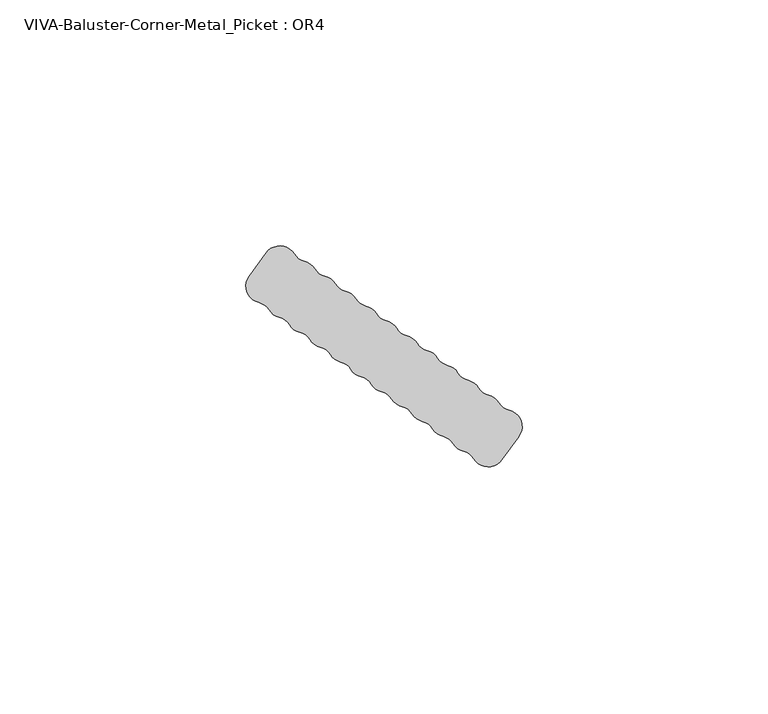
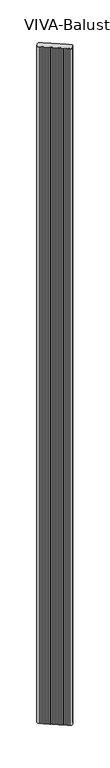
"""IFC4 building model written with IfcOpenShell, lengths in millimetres: railing geometry, VIVA-Baluster-Corner-Metal_Picket : OR4."""

from ifc_helpers import new_model, si_unit, frame, origin, place, context, project, spatial, polyline, circle_curve, source, transform, mapped, element, save
from ifc_brep_helpers import plane_surface, cylinder_surface, revolved_surface, advanced_brep


def viva_baluster_corner_metal_picket_or4_408f65ec(model_context):
    return source(origin(), model_context, "Body", "AdvancedBrep", [
        advanced_brep(
        [(48.8660209, 253.3239054, 1219.2), (52.2899776, 258.0365775, 1219.2), (50.3414144, 263.3921451, 1219.2), (48.2591082, 264.9050291, 1219.2), (46.176802, 266.4179131, 1219.2), (44.0944959, 267.9307971, 1219.2), (42.0121897, 269.443681, 1219.2), (39.9298836, 270.956565, 1219.2), (37.8475774, 272.469449, 1219.2), (35.7652713, 273.982333, 1219.2), (33.6829651, 275.4952169, 1219.2), (31.6006589, 277.0081009, 1219.2), (29.5183528, 278.5209849, 1219.2), (27.4360466, 280.0338689, 1219.2), (25.3537405, 281.5467529, 1219.2), (23.2714343, 283.0596368, 1219.2), (21.1891282, 284.5725208, 1219.2), (19.106822, 286.0854048, 1219.2), (17.0245158, 287.5982888, 1219.2), (14.9422097, 289.1111728, 1219.2), (12.8599035, 290.6240567, 1219.2), (10.7775974, 292.1369407, 1219.2), (8.6952912, 293.6498247, 1219.2), (6.612985, 295.1627087, 1219.2), (0.9173985, 295.3609411, 1219.2), (-2.5065583, 290.6482689, 1219.2), (-0.557995, 285.2927014, 1219.2), (1.5243111, 283.7798174, 1219.2), (3.6066173, 282.2669334, 1219.2), (5.6889234, 280.7540494, 1219.2), (7.7712296, 279.2411654, 1219.2), (9.8535358, 277.7282815, 1219.2), (11.9358419, 276.2153975, 1219.2), (14.0181481, 274.7025135, 1219.2), (16.1004542, 273.1896295, 1219.2), (18.1827604, 271.6767455, 1219.2), (20.2650665, 270.1638616, 1219.2), (22.3473727, 268.6509776, 1219.2), (24.4296789, 267.1380936, 1219.2), (26.511985, 265.6252096, 1219.2), (28.5942912, 264.1123256, 1219.2), (30.6765973, 262.5994417, 1219.2), (32.7589035, 261.0865577, 1219.2), (34.8412096, 259.5736737, 1219.2), (36.9235158, 258.0607897, 1219.2), (39.005822, 256.5479057, 1219.2), (41.0881281, 255.0350218, 1219.2), (43.1704343, 253.5221378, 1219.2), (48.8660209, 253.3239054, -245.8945017), (43.1704343, 253.5221378, -245.8945017), (41.0881281, 255.0350218, -245.8945017), (39.005822, 256.5479057, -245.8945017), (36.9235158, 258.0607897, -245.8945017), (34.8412096, 259.5736737, -245.8945017), (32.7589035, 261.0865577, -245.8945017), (30.6765973, 262.5994417, -245.8945017), (28.5942912, 264.1123256, -245.8945017), (26.511985, 265.6252096, -245.8945017), (24.4296789, 267.1380936, -245.8945017), (22.3473727, 268.6509776, -245.8945017), (20.2650665, 270.1638616, -245.8945017), (18.1827604, 271.6767455, -245.8945017), (16.1004542, 273.1896295, -245.8945017), (14.0181481, 274.7025135, -245.8945017), (11.9358419, 276.2153975, -245.8945017), (9.8535358, 277.7282815, -245.8945017), (7.7712296, 279.2411654, -245.8945017), (5.6889234, 280.7540494, -245.8945017), (3.6066173, 282.2669334, -245.8945017), (1.5243111, 283.7798174, -245.8945017), (-0.557995, 285.2927014, -245.8945017), (-2.5065583, 290.6482689, -245.8945017), (0.9173985, 295.3609411, -245.8945017), (6.612985, 295.1627087, -245.8945017), (8.6952912, 293.6498247, -245.8945017), (10.7775974, 292.1369407, -245.8945017), (12.8599035, 290.6240567, -245.8945017), (14.9422097, 289.1111728, -245.8945017), (17.0245158, 287.5982888, -245.8945017), (19.106822, 286.0854048, -245.8945017), (21.1891282, 284.5725208, -245.8945017), (23.2714343, 283.0596368, -245.8945017), (25.3537405, 281.5467529, -245.8945017), (27.4360466, 280.0338689, -245.8945017), (29.5183528, 278.5209849, -245.8945017), (31.6006589, 277.0081009, -245.8945017), (33.6829651, 275.4952169, -245.8945017), (35.7652713, 273.982333, -245.8945017), (37.8475774, 272.469449, -245.8945017), (39.9298836, 270.956565, -245.8945017), (42.0121897, 269.443681, -245.8945017), (44.0944959, 267.9307971, -245.8945017), (46.176802, 266.4179131, -245.8945017), (48.2591082, 264.9050291, -245.8945017), (50.3414144, 263.3921451, -245.8945017), (52.2899776, 258.0365775, -245.8945017)],
        [
            (0, 1),
            (1, 2, circle_curve(frame((49.5090558, 260.0570355, 1219.2), z_axis=(0.0, 0.0, 1.0), x_axis=(1.0, 0.0, 0.0)), 3.4374084)),
            (2, 3, circle_curve(frame((51.1737729, 266.7272547, 1219.2), z_axis=(0.0, 0.0, -1.0), x_axis=(1.0, 0.0, 0.0)), 3.4374084)),
            (3, 4, circle_curve(frame((45.3444434, 263.0828035, 1219.2), z_axis=(0.0, 0.0, 1.0), x_axis=(1.0, 0.0, 0.0)), 3.4374084)),
            (4, 5, circle_curve(frame((47.0091606, 269.7530227, 1219.2), z_axis=(0.0, 0.0, -1.0), x_axis=(1.0, 0.0, 0.0)), 3.4374084)),
            (5, 6, circle_curve(frame((41.1798311, 266.1085715, 1219.2), z_axis=(0.0, 0.0, 1.0), x_axis=(1.0, 0.0, 0.0)), 3.4374084)),
            (6, 7, circle_curve(frame((42.8445483, 272.7787906, 1219.2), z_axis=(0.0, 0.0, -1.0), x_axis=(1.0, 0.0, 0.0)), 3.4374084)),
            (7, 8, circle_curve(frame((37.0152188, 269.1343394, 1219.2), z_axis=(0.0, 0.0, 1.0), x_axis=(1.0, 0.0, 0.0)), 3.4374084)),
            (8, 9, circle_curve(frame((38.679936, 275.8045586, 1219.2), z_axis=(0.0, 0.0, -1.0), x_axis=(1.0, 0.0, 0.0)), 3.4374084)),
            (9, 10, circle_curve(frame((32.8506065, 272.1601074, 1219.2), z_axis=(0.0, 0.0, 1.0), x_axis=(1.0, 0.0, 0.0)), 3.4374084)),
            (10, 11, circle_curve(frame((34.5153237, 278.8303265, 1219.2), z_axis=(0.0, 0.0, -1.0), x_axis=(1.0, 0.0, 0.0)), 3.4374084)),
            (11, 12, circle_curve(frame((28.6859942, 275.1858753, 1219.2), z_axis=(0.0, 0.0, 1.0), x_axis=(1.0, 0.0, 0.0)), 3.4374084)),
            (12, 13, circle_curve(frame((30.3507114, 281.8560945, 1219.2), z_axis=(0.0, 0.0, -1.0), x_axis=(1.0, 0.0, 0.0)), 3.4374084)),
            (13, 14, circle_curve(frame((24.5213819, 278.2116433, 1219.2), z_axis=(0.0, 0.0, 1.0), x_axis=(1.0, 0.0, 0.0)), 3.4374084)),
            (14, 15, circle_curve(frame((26.1860991, 284.8818624, 1219.2), z_axis=(0.0, 0.0, -1.0), x_axis=(1.0, 0.0, 0.0)), 3.4374084)),
            (15, 16, circle_curve(frame((20.3567696, 281.2374112, 1219.2), z_axis=(0.0, 0.0, 1.0), x_axis=(1.0, 0.0, 0.0)), 3.4374084)),
            (16, 17, circle_curve(frame((22.0214867, 287.9076304, 1219.2), z_axis=(0.0, 0.0, -1.0), x_axis=(1.0, 0.0, 0.0)), 3.4374084)),
            (17, 18, circle_curve(frame((16.1921572, 284.2631792, 1219.2), z_axis=(0.0, 0.0, 1.0), x_axis=(1.0, 0.0, 0.0)), 3.4374084)),
            (18, 19, circle_curve(frame((17.8568744, 290.9333984, 1219.2), z_axis=(0.0, 0.0, -1.0), x_axis=(1.0, 0.0, 0.0)), 3.4374084)),
            (19, 20, circle_curve(frame((12.0275449, 287.2889472, 1219.2), z_axis=(0.0, 0.0, 1.0), x_axis=(1.0, 0.0, 0.0)), 3.4374084)),
            (20, 21, circle_curve(frame((13.6922621, 293.9591663, 1219.2), z_axis=(0.0, 0.0, -1.0), x_axis=(1.0, 0.0, 0.0)), 3.4374084)),
            (21, 22, circle_curve(frame((7.8629326, 290.3147151, 1219.2), z_axis=(0.0, 0.0, 1.0), x_axis=(1.0, 0.0, 0.0)), 3.4374084)),
            (22, 23, circle_curve(frame((9.5276498, 296.9849343, 1219.2), z_axis=(0.0, 0.0, -1.0), x_axis=(1.0, 0.0, 0.0)), 3.4374084)),
            (23, 24, circle_curve(frame((3.6983203, 293.3404831, 1219.2), z_axis=(0.0, 0.0, 1.0), x_axis=(1.0, 0.0, 0.0)), 3.4374084)),
            (24, 25),
            (25, 26, circle_curve(frame((0.2743636, 288.6278109, 1219.2), z_axis=(0.0, 0.0, 1.0), x_axis=(1.0, 0.0, 0.0)), 3.4374084)),
            (26, 27, circle_curve(frame((-1.3903536, 281.9575918, 1219.2), z_axis=(0.0, 0.0, -1.0), x_axis=(1.0, 0.0, 0.0)), 3.4374084)),
            (27, 28, circle_curve(frame((4.4389759, 285.602043, 1219.2), z_axis=(0.0, 0.0, 1.0), x_axis=(1.0, 0.0, 0.0)), 3.4374084)),
            (28, 29, circle_curve(frame((2.7742587, 278.9318238, 1219.2), z_axis=(0.0, 0.0, -1.0), x_axis=(1.0, 0.0, 0.0)), 3.4374084)),
            (29, 30, circle_curve(frame((8.6035882, 282.576275, 1219.2), z_axis=(0.0, 0.0, 1.0), x_axis=(1.0, 0.0, 0.0)), 3.4374084)),
            (30, 31, circle_curve(frame((6.938871, 275.9060559, 1219.2), z_axis=(0.0, 0.0, -1.0), x_axis=(1.0, 0.0, 0.0)), 3.4374084)),
            (31, 32, circle_curve(frame((12.7682005, 279.5505071, 1219.2), z_axis=(0.0, 0.0, 1.0), x_axis=(1.0, 0.0, 0.0)), 3.4374084)),
            (32, 33, circle_curve(frame((11.1034833, 272.8802879, 1219.2), z_axis=(0.0, 0.0, -1.0), x_axis=(1.0, 0.0, 0.0)), 3.4374084)),
            (33, 34, circle_curve(frame((16.9328128, 276.5247391, 1219.2), z_axis=(0.0, 0.0, 1.0), x_axis=(1.0, 0.0, 0.0)), 3.4374084)),
            (34, 35, circle_curve(frame((15.2680956, 269.8545199, 1219.2), z_axis=(0.0, 0.0, -1.0), x_axis=(1.0, 0.0, 0.0)), 3.4374084)),
            (35, 36, circle_curve(frame((21.0974251, 273.4989711, 1219.2), z_axis=(0.0, 0.0, 1.0), x_axis=(1.0, 0.0, 0.0)), 3.4374084)),
            (36, 37, circle_curve(frame((19.432708, 266.828752, 1219.2), z_axis=(0.0, 0.0, -1.0), x_axis=(1.0, 0.0, 0.0)), 3.4374084)),
            (37, 38, circle_curve(frame((25.2620375, 270.4732032, 1219.2), z_axis=(0.0, 0.0, 1.0), x_axis=(1.0, 0.0, 0.0)), 3.4374084)),
            (38, 39, circle_curve(frame((23.5973203, 263.802984, 1219.2), z_axis=(0.0, 0.0, -1.0), x_axis=(1.0, 0.0, 0.0)), 3.4374084)),
            (39, 40, circle_curve(frame((29.4266498, 267.4474352, 1219.2), z_axis=(0.0, 0.0, 1.0), x_axis=(1.0, 0.0, 0.0)), 3.4374084)),
            (40, 41, circle_curve(frame((27.7619326, 260.7772161, 1219.2), z_axis=(0.0, 0.0, -1.0), x_axis=(1.0, 0.0, 0.0)), 3.4374084)),
            (41, 42, circle_curve(frame((33.5912621, 264.4216673, 1219.2), z_axis=(0.0, 0.0, 1.0), x_axis=(1.0, 0.0, 0.0)), 3.4374084)),
            (42, 43, circle_curve(frame((31.9265449, 257.7514481, 1219.2), z_axis=(0.0, 0.0, -1.0), x_axis=(1.0, 0.0, 0.0)), 3.4374084)),
            (43, 44, circle_curve(frame((37.7558744, 261.3958993, 1219.2), z_axis=(0.0, 0.0, 1.0), x_axis=(1.0, 0.0, 0.0)), 3.4374084)),
            (44, 45, circle_curve(frame((36.0911572, 254.7256801, 1219.2), z_axis=(0.0, 0.0, -1.0), x_axis=(1.0, 0.0, 0.0)), 3.4374084)),
            (45, 46, circle_curve(frame((41.9204867, 258.3701313, 1219.2), z_axis=(0.0, 0.0, 1.0), x_axis=(1.0, 0.0, 0.0)), 3.4374084)),
            (46, 47, circle_curve(frame((40.2557695, 251.6999122, 1219.2), z_axis=(0.0, 0.0, -1.0), x_axis=(1.0, 0.0, 0.0)), 3.4374084)),
            (47, 0, circle_curve(frame((46.085099, 255.3443634, 1219.2), z_axis=(0.0, 0.0, 1.0), x_axis=(1.0, 0.0, 0.0)), 3.4374084)),
            (48, 49, circle_curve(frame((46.085099, 255.3443634, -245.8945017), z_axis=(0.0, 0.0, -1.0), x_axis=(1.0, 0.0, 0.0)), 3.4374084)),
            (49, 50, circle_curve(frame((40.2557695, 251.6999122, -245.8945017), z_axis=(0.0, 0.0, 1.0), x_axis=(1.0, 0.0, 0.0)), 3.4374084)),
            (50, 51, circle_curve(frame((41.9204867, 258.3701313, -245.8945017), z_axis=(0.0, 0.0, -1.0), x_axis=(1.0, 0.0, 0.0)), 3.4374084)),
            (51, 52, circle_curve(frame((36.0911572, 254.7256801, -245.8945017), z_axis=(0.0, 0.0, 1.0), x_axis=(1.0, 0.0, 0.0)), 3.4374084)),
            (52, 53, circle_curve(frame((37.7558744, 261.3958993, -245.8945017), z_axis=(0.0, 0.0, -1.0), x_axis=(1.0, 0.0, 0.0)), 3.4374084)),
            (53, 54, circle_curve(frame((31.9265449, 257.7514481, -245.8945017), z_axis=(0.0, 0.0, 1.0), x_axis=(1.0, 0.0, 0.0)), 3.4374084)),
            (54, 55, circle_curve(frame((33.5912621, 264.4216673, -245.8945017), z_axis=(0.0, 0.0, -1.0), x_axis=(1.0, 0.0, 0.0)), 3.4374084)),
            (55, 56, circle_curve(frame((27.7619326, 260.7772161, -245.8945017), z_axis=(0.0, 0.0, 1.0), x_axis=(1.0, 0.0, 0.0)), 3.4374084)),
            (56, 57, circle_curve(frame((29.4266498, 267.4474352, -245.8945017), z_axis=(0.0, 0.0, -1.0), x_axis=(1.0, 0.0, 0.0)), 3.4374084)),
            (57, 58, circle_curve(frame((23.5973203, 263.802984, -245.8945017), z_axis=(0.0, 0.0, 1.0), x_axis=(1.0, 0.0, 0.0)), 3.4374084)),
            (58, 59, circle_curve(frame((25.2620375, 270.4732032, -245.8945017), z_axis=(0.0, 0.0, -1.0), x_axis=(1.0, 0.0, 0.0)), 3.4374084)),
            (59, 60, circle_curve(frame((19.432708, 266.828752, -245.8945017), z_axis=(0.0, 0.0, 1.0), x_axis=(1.0, 0.0, 0.0)), 3.4374084)),
            (60, 61, circle_curve(frame((21.0974251, 273.4989711, -245.8945017), z_axis=(0.0, 0.0, -1.0), x_axis=(1.0, 0.0, 0.0)), 3.4374084)),
            (61, 62, circle_curve(frame((15.2680956, 269.8545199, -245.8945017), z_axis=(0.0, 0.0, 1.0), x_axis=(1.0, 0.0, 0.0)), 3.4374084)),
            (62, 63, circle_curve(frame((16.9328128, 276.5247391, -245.8945017), z_axis=(0.0, 0.0, -1.0), x_axis=(1.0, 0.0, 0.0)), 3.4374084)),
            (63, 64, circle_curve(frame((11.1034833, 272.8802879, -245.8945017), z_axis=(0.0, 0.0, 1.0), x_axis=(1.0, 0.0, 0.0)), 3.4374084)),
            (64, 65, circle_curve(frame((12.7682005, 279.5505071, -245.8945017), z_axis=(0.0, 0.0, -1.0), x_axis=(1.0, 0.0, 0.0)), 3.4374084)),
            (65, 66, circle_curve(frame((6.938871, 275.9060559, -245.8945017), z_axis=(0.0, 0.0, 1.0), x_axis=(1.0, 0.0, 0.0)), 3.4374084)),
            (66, 67, circle_curve(frame((8.6035882, 282.576275, -245.8945017), z_axis=(0.0, 0.0, -1.0), x_axis=(1.0, 0.0, 0.0)), 3.4374084)),
            (67, 68, circle_curve(frame((2.7742587, 278.9318238, -245.8945017), z_axis=(0.0, 0.0, 1.0), x_axis=(1.0, 0.0, 0.0)), 3.4374084)),
            (68, 69, circle_curve(frame((4.4389759, 285.602043, -245.8945017), z_axis=(0.0, 0.0, -1.0), x_axis=(1.0, 0.0, 0.0)), 3.4374084)),
            (69, 70, circle_curve(frame((-1.3903536, 281.9575918, -245.8945017), z_axis=(0.0, 0.0, 1.0), x_axis=(1.0, 0.0, 0.0)), 3.4374084)),
            (70, 71, circle_curve(frame((0.2743636, 288.6278109, -245.8945017), z_axis=(0.0, 0.0, -1.0), x_axis=(1.0, 0.0, 0.0)), 3.4374084)),
            (71, 72),
            (72, 73, circle_curve(frame((3.6983203, 293.3404831, -245.8945017), z_axis=(0.0, 0.0, -1.0), x_axis=(1.0, 0.0, 0.0)), 3.4374084)),
            (73, 74, circle_curve(frame((9.5276498, 296.9849343, -245.8945017), z_axis=(0.0, 0.0, 1.0), x_axis=(1.0, 0.0, 0.0)), 3.4374084)),
            (74, 75, circle_curve(frame((7.8629326, 290.3147151, -245.8945017), z_axis=(0.0, 0.0, -1.0), x_axis=(1.0, 0.0, 0.0)), 3.4374084)),
            (75, 76, circle_curve(frame((13.6922621, 293.9591663, -245.8945017), z_axis=(0.0, 0.0, 1.0), x_axis=(1.0, 0.0, 0.0)), 3.4374084)),
            (76, 77, circle_curve(frame((12.0275449, 287.2889472, -245.8945017), z_axis=(0.0, 0.0, -1.0), x_axis=(1.0, 0.0, 0.0)), 3.4374084)),
            (77, 78, circle_curve(frame((17.8568744, 290.9333984, -245.8945017), z_axis=(0.0, 0.0, 1.0), x_axis=(1.0, 0.0, 0.0)), 3.4374084)),
            (78, 79, circle_curve(frame((16.1921572, 284.2631792, -245.8945017), z_axis=(0.0, 0.0, -1.0), x_axis=(1.0, 0.0, 0.0)), 3.4374084)),
            (79, 80, circle_curve(frame((22.0214867, 287.9076304, -245.8945017), z_axis=(0.0, 0.0, 1.0), x_axis=(1.0, 0.0, 0.0)), 3.4374084)),
            (80, 81, circle_curve(frame((20.3567696, 281.2374112, -245.8945017), z_axis=(0.0, 0.0, -1.0), x_axis=(1.0, 0.0, 0.0)), 3.4374084)),
            (81, 82, circle_curve(frame((26.1860991, 284.8818624, -245.8945017), z_axis=(0.0, 0.0, 1.0), x_axis=(1.0, 0.0, 0.0)), 3.4374084)),
            (82, 83, circle_curve(frame((24.5213819, 278.2116433, -245.8945017), z_axis=(0.0, 0.0, -1.0), x_axis=(1.0, 0.0, 0.0)), 3.4374084)),
            (83, 84, circle_curve(frame((30.3507114, 281.8560945, -245.8945017), z_axis=(0.0, 0.0, 1.0), x_axis=(1.0, 0.0, 0.0)), 3.4374084)),
            (84, 85, circle_curve(frame((28.6859942, 275.1858753, -245.8945017), z_axis=(0.0, 0.0, -1.0), x_axis=(1.0, 0.0, 0.0)), 3.4374084)),
            (85, 86, circle_curve(frame((34.5153237, 278.8303265, -245.8945017), z_axis=(0.0, 0.0, 1.0), x_axis=(1.0, 0.0, 0.0)), 3.4374084)),
            (86, 87, circle_curve(frame((32.8506065, 272.1601074, -245.8945017), z_axis=(0.0, 0.0, -1.0), x_axis=(1.0, 0.0, 0.0)), 3.4374084)),
            (87, 88, circle_curve(frame((38.679936, 275.8045586, -245.8945017), z_axis=(0.0, 0.0, 1.0), x_axis=(1.0, 0.0, 0.0)), 3.4374084)),
            (88, 89, circle_curve(frame((37.0152188, 269.1343394, -245.8945017), z_axis=(0.0, 0.0, -1.0), x_axis=(1.0, 0.0, 0.0)), 3.4374084)),
            (89, 90, circle_curve(frame((42.8445483, 272.7787906, -245.8945017), z_axis=(0.0, 0.0, 1.0), x_axis=(1.0, 0.0, 0.0)), 3.4374084)),
            (90, 91, circle_curve(frame((41.1798311, 266.1085715, -245.8945017), z_axis=(0.0, 0.0, -1.0), x_axis=(1.0, 0.0, 0.0)), 3.4374084)),
            (91, 92, circle_curve(frame((47.0091606, 269.7530227, -245.8945017), z_axis=(0.0, 0.0, 1.0), x_axis=(1.0, 0.0, 0.0)), 3.4374084)),
            (92, 93, circle_curve(frame((45.3444434, 263.0828035, -245.8945017), z_axis=(0.0, 0.0, -1.0), x_axis=(1.0, 0.0, 0.0)), 3.4374084)),
            (93, 94, circle_curve(frame((51.1737729, 266.7272547, -245.8945017), z_axis=(0.0, 0.0, 1.0), x_axis=(1.0, 0.0, 0.0)), 3.4374084)),
            (94, 95, circle_curve(frame((49.5090558, 260.0570355, -245.8945017), z_axis=(0.0, 0.0, -1.0), x_axis=(1.0, 0.0, 0.0)), 3.4374084)),
            (95, 48),
            (0, 48),
            (95, 1),
            (94, 2),
            (93, 3),
            (92, 4),
            (91, 5),
            (90, 6),
            (89, 7),
            (88, 8),
            (87, 9),
            (86, 10),
            (85, 11),
            (84, 12),
            (83, 13),
            (82, 14),
            (81, 15),
            (80, 16),
            (79, 17),
            (78, 18),
            (77, 19),
            (76, 20),
            (75, 21),
            (74, 22),
            (73, 23),
            (72, 24),
            (71, 25),
            (70, 26),
            (69, 27),
            (68, 28),
            (67, 29),
            (66, 30),
            (65, 31),
            (64, 32),
            (63, 33),
            (62, 34),
            (61, 35),
            (60, 36),
            (59, 37),
            (58, 38),
            (57, 39),
            (56, 40),
            (55, 41),
            (54, 42),
            (53, 43),
            (52, 44),
            (51, 45),
            (50, 46),
            (49, 47),
        ],
        [
            plane_surface(frame((52.2899776, 258.0365775, 1219.2), z_axis=(0.0, 0.0, 1.0000000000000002), x_axis=(0.5877852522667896, 0.8090169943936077, 0.0))),
            plane_surface(frame((52.2899776, 258.0365775, -245.8945017), z_axis=(0.0, 0.0, -1.0000000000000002), x_axis=(-0.5877852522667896, -0.8090169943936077, 0.0))),
            plane_surface(frame((48.8660209, 253.3239054, 1219.2), z_axis=(0.8090169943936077, -0.5877852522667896, 0.0), x_axis=(0.0, 0.0, -1.0))),
            cylinder_surface(frame((49.5090558, 260.0570355, -245.8945017), z_axis=(0.0, 0.0, 1.0), x_axis=(1.0, 0.0, 0.0)), 3.4374084),
            revolved_surface(polyline([(54.611181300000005, 266.7272547, -245.8945017), (54.611181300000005, 266.7272547, 1219.2)]), (51.1737729, 266.7272547, -245.8945017), (0.0, 0.0, -1.0)),
            cylinder_surface(frame((45.3444434, 263.0828035, -245.8945017), z_axis=(0.0, 0.0, 1.0), x_axis=(1.0, 0.0, 0.0)), 3.4374084),
            revolved_surface(polyline([(50.446569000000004, 269.7530227, -245.8945017), (50.446569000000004, 269.7530227, 1219.2)]), (47.0091606, 269.7530227, -245.8945017), (0.0, 0.0, -1.0)),
            cylinder_surface(frame((41.1798311, 266.1085715, -245.8945017), z_axis=(0.0, 0.0, 1.0), x_axis=(1.0, 0.0, 0.0)), 3.4374084),
            revolved_surface(polyline([(46.2819567, 272.7787906, -245.8945017), (46.2819567, 272.7787906, 1219.2)]), (42.8445483, 272.7787906, -245.8945017), (0.0, 0.0, -1.0)),
            cylinder_surface(frame((37.0152188, 269.1343394, -245.8945017), z_axis=(0.0, 0.0, 1.0), x_axis=(1.0, 0.0, 0.0)), 3.4374084),
            revolved_surface(polyline([(42.1173444, 275.8045586, -245.8945017), (42.1173444, 275.8045586, 1219.2)]), (38.679936, 275.8045586, -245.8945017), (0.0, 0.0, -1.0)),
            cylinder_surface(frame((32.8506065, 272.1601074, -245.8945017), z_axis=(0.0, 0.0, 1.0), x_axis=(1.0, 0.0, 0.0)), 3.4374084),
            revolved_surface(polyline([(37.952732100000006, 278.8303265, -245.8945017), (37.952732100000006, 278.8303265, 1219.2)]), (34.5153237, 278.8303265, -245.8945017), (0.0, 0.0, -1.0)),
            cylinder_surface(frame((28.6859942, 275.1858753, -245.8945017), z_axis=(0.0, 0.0, 1.0), x_axis=(1.0, 0.0, 0.0)), 3.4374084),
            revolved_surface(polyline([(33.788119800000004, 281.8560945, -245.8945017), (33.788119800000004, 281.8560945, 1219.2)]), (30.3507114, 281.8560945, -245.8945017), (0.0, 0.0, -1.0)),
            cylinder_surface(frame((24.5213819, 278.2116433, -245.8945017), z_axis=(0.0, 0.0, 1.0), x_axis=(1.0, 0.0, 0.0)), 3.4374084),
            revolved_surface(polyline([(29.6235075, 284.8818624, -245.8945017), (29.6235075, 284.8818624, 1219.2)]), (26.1860991, 284.8818624, -245.8945017), (0.0, 0.0, -1.0)),
            cylinder_surface(frame((20.3567696, 281.2374112, -245.8945017), z_axis=(0.0, 0.0, 1.0), x_axis=(1.0, 0.0, 0.0)), 3.4374084),
            revolved_surface(polyline([(25.4588951, 287.9076304, -245.8945017), (25.4588951, 287.9076304, 1219.2)]), (22.0214867, 287.9076304, -245.8945017), (0.0, 0.0, -1.0)),
            cylinder_surface(frame((16.1921572, 284.2631792, -245.8945017), z_axis=(0.0, 0.0, 1.0), x_axis=(1.0, 0.0, 0.0)), 3.4374084),
            revolved_surface(polyline([(21.294282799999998, 290.9333984, -245.8945017), (21.294282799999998, 290.9333984, 1219.2)]), (17.8568744, 290.9333984, -245.8945017), (0.0, 0.0, -1.0)),
            cylinder_surface(frame((12.0275449, 287.2889472, -245.8945017), z_axis=(0.0, 0.0, 1.0), x_axis=(1.0, 0.0, 0.0)), 3.4374084),
            revolved_surface(polyline([(17.1296705, 293.9591663, -245.8945017), (17.1296705, 293.9591663, 1219.2)]), (13.6922621, 293.9591663, -245.8945017), (0.0, 0.0, -1.0)),
            cylinder_surface(frame((7.8629326, 290.3147151, -245.8945017), z_axis=(0.0, 0.0, 1.0), x_axis=(1.0, 0.0, 0.0)), 3.4374084),
            revolved_surface(polyline([(12.965058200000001, 296.9849343, -245.8945017), (12.965058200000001, 296.9849343, 1219.2)]), (9.5276498, 296.9849343, -245.8945017), (0.0, 0.0, -1.0)),
            cylinder_surface(frame((3.6983203, 293.3404831, -245.8945017), z_axis=(0.0, 0.0, 1.0), x_axis=(1.0, 0.0, 0.0)), 3.4374084),
            plane_surface(frame((0.9173985, 295.3609411, 1219.2), z_axis=(-0.8090169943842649, 0.5877852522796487, 0.0), x_axis=(0.0, 0.0, -1.0))),
            cylinder_surface(frame((0.2743636, 288.6278109, -245.8945017), z_axis=(0.0, 0.0, 1.0), x_axis=(1.0, 0.0, 0.0)), 3.4374084),
            revolved_surface(polyline([(2.0470547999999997, 281.9575918, -245.8945017), (2.0470547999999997, 281.9575918, 1219.2)]), (-1.3903536, 281.9575918, -245.8945017), (0.0, 0.0, -1.0)),
            cylinder_surface(frame((4.4389759, 285.602043, -245.8945017), z_axis=(0.0, 0.0, 1.0), x_axis=(1.0, 0.0, 0.0)), 3.4374084),
            revolved_surface(polyline([(6.2116671, 278.9318238, -245.8945017), (6.2116671, 278.9318238, 1219.2)]), (2.7742587, 278.9318238, -245.8945017), (0.0, 0.0, -1.0)),
            cylinder_surface(frame((8.6035882, 282.576275, -245.8945017), z_axis=(0.0, 0.0, 1.0), x_axis=(1.0, 0.0, 0.0)), 3.4374084),
            revolved_surface(polyline([(10.3762794, 275.9060559, -245.8945017), (10.3762794, 275.9060559, 1219.2)]), (6.938871, 275.9060559, -245.8945017), (0.0, 0.0, -1.0)),
            cylinder_surface(frame((12.7682005, 279.5505071, -245.8945017), z_axis=(0.0, 0.0, 1.0), x_axis=(1.0, 0.0, 0.0)), 3.4374084),
            revolved_surface(polyline([(14.5408917, 272.8802879, -245.8945017), (14.5408917, 272.8802879, 1219.2)]), (11.1034833, 272.8802879, -245.8945017), (0.0, 0.0, -1.0)),
            cylinder_surface(frame((16.9328128, 276.5247391, -245.8945017), z_axis=(0.0, 0.0, 1.0), x_axis=(1.0, 0.0, 0.0)), 3.4374084),
            revolved_surface(polyline([(18.705504, 269.8545199, -245.8945017), (18.705504, 269.8545199, 1219.2)]), (15.2680956, 269.8545199, -245.8945017), (0.0, 0.0, -1.0)),
            cylinder_surface(frame((21.0974251, 273.4989711, -245.8945017), z_axis=(0.0, 0.0, 1.0), x_axis=(1.0, 0.0, 0.0)), 3.4374084),
            revolved_surface(polyline([(22.8701164, 266.828752, -245.8945017), (22.8701164, 266.828752, 1219.2)]), (19.432708, 266.828752, -245.8945017), (0.0, 0.0, -1.0)),
            cylinder_surface(frame((25.2620375, 270.4732032, -245.8945017), z_axis=(0.0, 0.0, 1.0), x_axis=(1.0, 0.0, 0.0)), 3.4374084),
            revolved_surface(polyline([(27.0347287, 263.802984, -245.8945017), (27.0347287, 263.802984, 1219.2)]), (23.5973203, 263.802984, -245.8945017), (0.0, 0.0, -1.0)),
            cylinder_surface(frame((29.4266498, 267.4474352, -245.8945017), z_axis=(0.0, 0.0, 1.0), x_axis=(1.0, 0.0, 0.0)), 3.4374084),
            revolved_surface(polyline([(31.199341, 260.7772161, -245.8945017), (31.199341, 260.7772161, 1219.2)]), (27.7619326, 260.7772161, -245.8945017), (0.0, 0.0, -1.0)),
            cylinder_surface(frame((33.5912621, 264.4216673, -245.8945017), z_axis=(0.0, 0.0, 1.0), x_axis=(1.0, 0.0, 0.0)), 3.4374084),
            revolved_surface(polyline([(35.3639533, 257.7514481, -245.8945017), (35.3639533, 257.7514481, 1219.2)]), (31.9265449, 257.7514481, -245.8945017), (0.0, 0.0, -1.0)),
            cylinder_surface(frame((37.7558744, 261.3958993, -245.8945017), z_axis=(0.0, 0.0, 1.0), x_axis=(1.0, 0.0, 0.0)), 3.4374084),
            revolved_surface(polyline([(39.5285656, 254.7256801, -245.8945017), (39.5285656, 254.7256801, 1219.2)]), (36.0911572, 254.7256801, -245.8945017), (0.0, 0.0, -1.0)),
            cylinder_surface(frame((41.9204867, 258.3701313, -245.8945017), z_axis=(0.0, 0.0, 1.0), x_axis=(1.0, 0.0, 0.0)), 3.4374084),
            revolved_surface(polyline([(43.6931779, 251.6999122, -245.8945017), (43.6931779, 251.6999122, 1219.2)]), (40.2557695, 251.6999122, -245.8945017), (0.0, 0.0, -1.0)),
            cylinder_surface(frame((46.085099, 255.3443634, -245.8945017), z_axis=(0.0, 0.0, 1.0), x_axis=(1.0, 0.0, 0.0)), 3.4374084),
        ],
        [
            (0, [[1, 2, 3, 4, 5, 6, 7, 8, 9, 10, 11, 12, 13, 14, 15, 16, 17, 18, 19, 20, 21, 22, 23, 24, 25, 26, 27, 28, 29, 30, 31, 32, 33, 34, 35, 36, 37, 38, 39, 40, 41, 42, 43, 44, 45, 46, 47, 48]]),
            (1, [[49, 50, 51, 52, 53, 54, 55, 56, 57, 58, 59, 60, 61, 62, 63, 64, 65, 66, 67, 68, 69, 70, 71, 72, 73, 74, 75, 76, 77, 78, 79, 80, 81, 82, 83, 84, 85, 86, 87, 88, 89, 90, 91, 92, 93, 94, 95, 96]]),
            (2, [[-1, 97, -96, 98]]),
            (3, [[-2, -98, -95, 99]]),
            (4, [[-3, -99, -94, 100]]),
            (5, [[-4, -100, -93, 101]]),
            (6, [[-5, -101, -92, 102]]),
            (7, [[-6, -102, -91, 103]]),
            (8, [[-7, -103, -90, 104]]),
            (9, [[-8, -104, -89, 105]]),
            (10, [[-9, -105, -88, 106]]),
            (11, [[-10, -106, -87, 107]]),
            (12, [[-11, -107, -86, 108]]),
            (13, [[-12, -108, -85, 109]]),
            (14, [[-13, -109, -84, 110]]),
            (15, [[-14, -110, -83, 111]]),
            (16, [[-15, -111, -82, 112]]),
            (17, [[-16, -112, -81, 113]]),
            (18, [[-17, -113, -80, 114]]),
            (19, [[-18, -114, -79, 115]]),
            (20, [[-19, -115, -78, 116]]),
            (21, [[-20, -116, -77, 117]]),
            (22, [[-21, -117, -76, 118]]),
            (23, [[-22, -118, -75, 119]]),
            (24, [[-23, -119, -74, 120]]),
            (25, [[-24, -120, -73, 121]]),
            (26, [[-25, -121, -72, 122]]),
            (27, [[-26, -122, -71, 123]]),
            (28, [[-27, -123, -70, 124]]),
            (29, [[-28, -124, -69, 125]]),
            (30, [[-29, -125, -68, 126]]),
            (31, [[-30, -126, -67, 127]]),
            (32, [[-31, -127, -66, 128]]),
            (33, [[-32, -128, -65, 129]]),
            (34, [[-33, -129, -64, 130]]),
            (35, [[-34, -130, -63, 131]]),
            (36, [[-35, -131, -62, 132]]),
            (37, [[-36, -132, -61, 133]]),
            (38, [[-37, -133, -60, 134]]),
            (39, [[-38, -134, -59, 135]]),
            (40, [[-39, -135, -58, 136]]),
            (41, [[-40, -136, -57, 137]]),
            (42, [[-41, -137, -56, 138]]),
            (43, [[-42, -138, -55, 139]]),
            (44, [[-43, -139, -54, 140]]),
            (45, [[-44, -140, -53, 141]]),
            (46, [[-45, -141, -52, 142]]),
            (47, [[-46, -142, -51, 143]]),
            (48, [[-47, -143, -50, 144]]),
            (49, [[-48, -144, -49, -97]]),
        ],
    ),
    ])


if __name__ == "__main__":
    model = new_model("IFC4")
    model_context = context("Model", 3, world=origin())
    ifc_project = project(units=[si_unit("LENGTHUNIT", "METRE", prefix="MILLI")], contexts=[model_context])
    site = spatial("IfcSite", under=ifc_project)
    building = spatial("IfcBuilding", under=site)
    placement = place(None, origin())
    viva_baluster_corner_metal_picket_or4_shape = viva_baluster_corner_metal_picket_or4_408f65ec(model_context)
    element("IfcRailing", 1, ObjectType="VIVA-Baluster-Corner-Metal_Picket : OR4", at=placement, inside=building, context=model_context, shape_type="MappedRepresentation", body=[
        mapped(viva_baluster_corner_metal_picket_or4_shape, transform((0.0, 0.0, 0.0), x_axis=(1.0, 0.0, 0.0), y_axis=(0.0, 1.0, 0.0), z_axis=(0.0, 0.0, 1.0))),
    ])
    save(model, "model.ifc")
